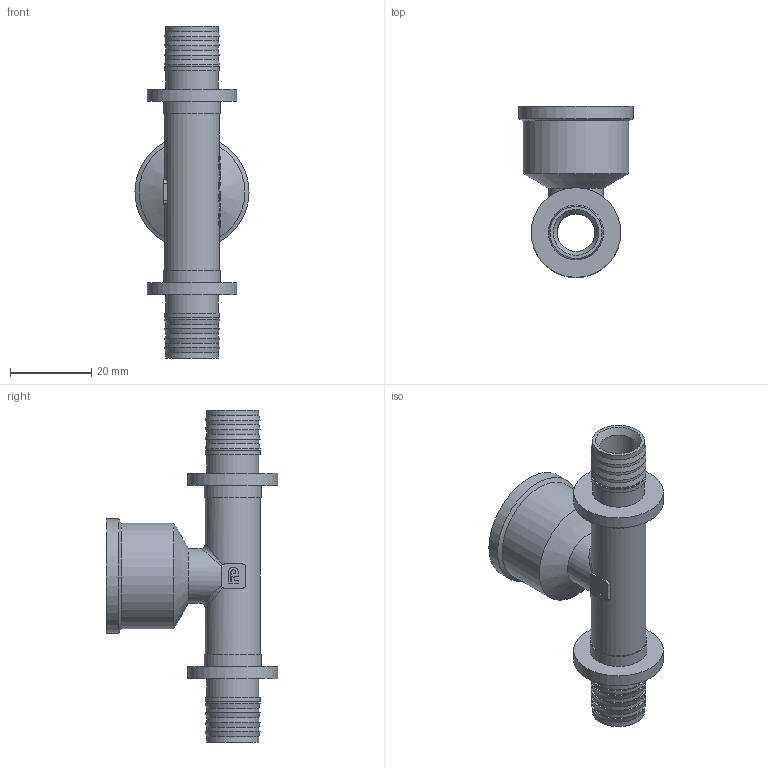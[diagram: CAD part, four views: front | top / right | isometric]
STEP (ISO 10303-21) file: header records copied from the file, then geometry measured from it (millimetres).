
FILE_DESCRIPTION(/* description */ (''),/* implementation_level */ '2;1');
FILE_NAME(/* name */ 'C:\Users\Doom\Desktop\Фадотех\Натяжка\SFT31_NEW 16x0.5Fx16 29.05.2020\SFT31_NEW 16x0.5Fx16 29.05.2020.stp',/* time_stamp */ '2022-07-26T12:35:01+03:00',/* author */ ('Doom'),/* organization */ (''),/* preprocessor_version */ 'ST-DEVELOPER v18',/* originating_system */ 'Autodesk Inventor 2020',/* authorisation */ '');
FILE_SCHEMA (('AUTOMOTIVE_DESIGN { 1 0 10303 214 3 1 1 }'));
Length unit declared in the file: millimetre
Products named in the file (1): FD-SFT01 NEW 18.12.2019
Bounding box: 28 x 42 x 81.5 mm (x, y, z)
Volume: 12465.8 mm3; surface area: 13723.6 mm2
Topology: 2 solids, 2 shells, 241 faces, 664 edges, 458 vertices
Faces by surface type: bspline 94, plane 87, cylinder 46, cone 14
Full cylindrical faces by diameter (mm): 9.3 x2, 12.8 x12, 13.5 x4, 14 x2, 18.26 x7, 20.95 x2, 22 x2, 26 x1, 28 x1
Entity records: 14278 total; most frequent: CARTESIAN_POINT 8566, ORIENTED_EDGE 1324, DIRECTION 917, EDGE_CURVE 662, VERTEX_POINT 457, AXIS2_PLACEMENT_3D 324, EDGE_LOOP 279, LINE 269
